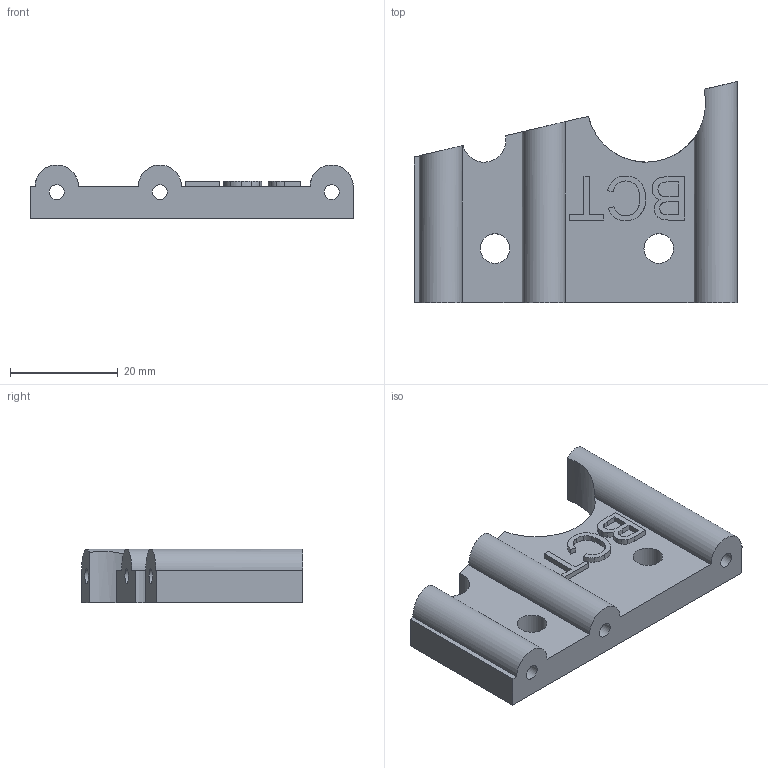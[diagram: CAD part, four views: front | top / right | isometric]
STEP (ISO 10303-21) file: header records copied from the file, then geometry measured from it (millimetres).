
FILE_DESCRIPTION(/* description */ (''),/* implementation_level */ '2;1');
FILE_NAME(/* name */ 'Z - BC Top Frame Tie v2.step',/* time_stamp */ '2023-03-23T06:43:38-06:00',/* author */ (''),/* organization */ (''),/* preprocessor_version */ 'ST-DEVELOPER v19.2',/* originating_system */ 'Autodesk Translation Framework v11.17.0.187',/* authorisation */ '');
FILE_SCHEMA (('AUTOMOTIVE_DESIGN { 1 0 10303 214 3 1 1 }'));
Length unit declared in the file: millimetre
Products named in the file (2): Z - BC Top Frame Tie; BC Top 1
Assembly tree (1 placements, depth 2):
  Z - BC Top Frame Tie
    BC Top 1
Bounding box: 60 x 40.97 x 10 mm (x, y, z)
Volume: 12586.7 mm3; surface area: 6583.9 mm2
Topology: 1 solids, 1 shells, 89 faces, 246 edges, 164 vertices
Faces by surface type: bspline 44, plane 35, cylinder 10
Full cylindrical faces by diameter (mm): 2.8 x3, 5.5 x2
Entity records: 3337 total; most frequent: CARTESIAN_POINT 1269, ORIENTED_EDGE 492, DIRECTION 273, EDGE_CURVE 246, VERTEX_POINT 164, LINE 137, VECTOR 137, EDGE_LOOP 104
